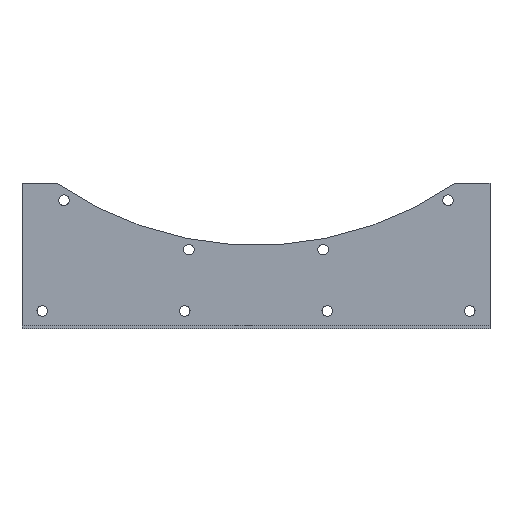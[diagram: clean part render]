
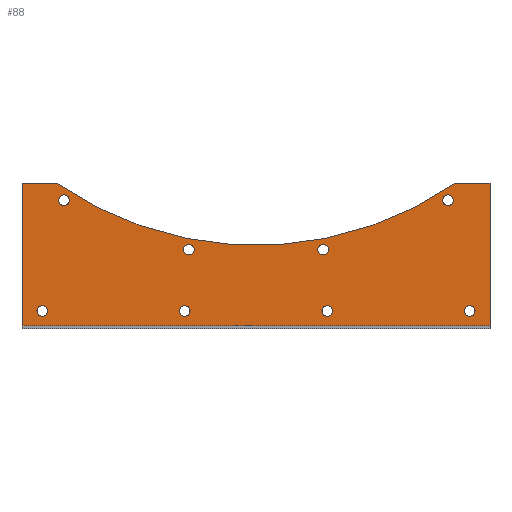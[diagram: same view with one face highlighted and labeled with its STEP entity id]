
A CAD part, top view. The second image highlights one B-rep face of the part: STEP entity #88.
In plain terms, the highlighted planar face has unit normal (0, 0, 1).
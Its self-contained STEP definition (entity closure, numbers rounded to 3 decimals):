
#88=ADVANCED_FACE('',(#184,#185,#186,#187,#188,#189,#190,#191,#192),#193,.T.);
#184=FACE_BOUND('',#285,.T.);
#185=FACE_BOUND('',#286,.T.);
#186=FACE_BOUND('',#287,.T.);
#187=FACE_BOUND('',#288,.T.);
#188=FACE_BOUND('',#289,.T.);
#189=FACE_BOUND('',#290,.T.);
#190=FACE_BOUND('',#291,.T.);
#191=FACE_BOUND('',#292,.T.);
#192=FACE_OUTER_BOUND('',#293,.T.);
#193=PLANE('',#294);
#285=EDGE_LOOP('',(#485,#486));
#286=EDGE_LOOP('',(#487,#488));
#287=EDGE_LOOP('',(#489,#490));
#288=EDGE_LOOP('',(#491,#492));
#289=EDGE_LOOP('',(#493,#494));
#290=EDGE_LOOP('',(#495,#496));
#291=EDGE_LOOP('',(#497,#498));
#292=EDGE_LOOP('',(#499,#500));
#293=EDGE_LOOP('',(#501,#502,#503,#504,#505,#506));
#294=AXIS2_PLACEMENT_3D('',#507,#508,#509);
#485=ORIENTED_EDGE('',*,*,#599,.T.);
#486=ORIENTED_EDGE('',*,*,#604,.T.);
#487=ORIENTED_EDGE('',*,*,#594,.T.);
#488=ORIENTED_EDGE('',*,*,#607,.T.);
#489=ORIENTED_EDGE('',*,*,#589,.T.);
#490=ORIENTED_EDGE('',*,*,#610,.T.);
#491=ORIENTED_EDGE('',*,*,#584,.T.);
#492=ORIENTED_EDGE('',*,*,#613,.T.);
#493=ORIENTED_EDGE('',*,*,#579,.T.);
#494=ORIENTED_EDGE('',*,*,#616,.T.);
#495=ORIENTED_EDGE('',*,*,#574,.T.);
#496=ORIENTED_EDGE('',*,*,#619,.T.);
#497=ORIENTED_EDGE('',*,*,#569,.T.);
#498=ORIENTED_EDGE('',*,*,#622,.T.);
#499=ORIENTED_EDGE('',*,*,#564,.T.);
#500=ORIENTED_EDGE('',*,*,#625,.T.);
#501=ORIENTED_EDGE('',*,*,#627,.T.);
#502=ORIENTED_EDGE('',*,*,#641,.F.);
#503=ORIENTED_EDGE('',*,*,#642,.F.);
#504=ORIENTED_EDGE('',*,*,#643,.F.);
#505=ORIENTED_EDGE('',*,*,#644,.F.);
#506=ORIENTED_EDGE('',*,*,#638,.F.);
#507=CARTESIAN_POINT('',(0.0,3.0,-17.0));
#508=DIRECTION('',(0.0,0.0,1.0));
#509=DIRECTION('',(1.0,0.0,0.0));
#564=EDGE_CURVE('',#664,#661,#665,.T.);
#569=EDGE_CURVE('',#673,#670,#674,.T.);
#574=EDGE_CURVE('',#682,#679,#683,.T.);
#579=EDGE_CURVE('',#691,#688,#692,.T.);
#584=EDGE_CURVE('',#700,#697,#701,.T.);
#589=EDGE_CURVE('',#709,#706,#710,.T.);
#594=EDGE_CURVE('',#718,#715,#719,.T.);
#599=EDGE_CURVE('',#727,#724,#728,.T.);
#604=EDGE_CURVE('',#724,#727,#734,.T.);
#607=EDGE_CURVE('',#715,#718,#737,.T.);
#610=EDGE_CURVE('',#706,#709,#740,.T.);
#613=EDGE_CURVE('',#697,#700,#743,.T.);
#616=EDGE_CURVE('',#688,#691,#746,.T.);
#619=EDGE_CURVE('',#679,#682,#749,.T.);
#622=EDGE_CURVE('',#670,#673,#752,.T.);
#625=EDGE_CURVE('',#661,#664,#755,.T.);
#627=EDGE_CURVE('',#757,#758,#759,.T.);
#638=EDGE_CURVE('',#757,#776,#777,.T.);
#641=EDGE_CURVE('',#780,#758,#781,.T.);
#642=EDGE_CURVE('',#782,#780,#783,.T.);
#643=EDGE_CURVE('',#784,#782,#785,.T.);
#644=EDGE_CURVE('',#776,#784,#786,.T.);
#661=VERTEX_POINT('',#807);
#664=VERTEX_POINT('',#811);
#665=CIRCLE('',#812,6.0);
#670=VERTEX_POINT('',#818);
#673=VERTEX_POINT('',#822);
#674=CIRCLE('',#823,6.0);
#679=VERTEX_POINT('',#829);
#682=VERTEX_POINT('',#833);
#683=CIRCLE('',#834,6.0);
#688=VERTEX_POINT('',#840);
#691=VERTEX_POINT('',#844);
#692=CIRCLE('',#845,6.0);
#697=VERTEX_POINT('',#851);
#700=VERTEX_POINT('',#855);
#701=CIRCLE('',#856,6.0);
#706=VERTEX_POINT('',#862);
#709=VERTEX_POINT('',#866);
#710=CIRCLE('',#867,6.0);
#715=VERTEX_POINT('',#873);
#718=VERTEX_POINT('',#877);
#719=CIRCLE('',#878,6.0);
#724=VERTEX_POINT('',#884);
#727=VERTEX_POINT('',#888);
#728=CIRCLE('',#889,6.0);
#734=CIRCLE('',#896,6.0);
#737=CIRCLE('',#899,6.0);
#740=CIRCLE('',#902,6.0);
#743=CIRCLE('',#905,6.0);
#746=CIRCLE('',#908,6.0);
#749=CIRCLE('',#911,6.0);
#752=CIRCLE('',#914,6.0);
#755=CIRCLE('',#917,6.0);
#757=VERTEX_POINT('',#919);
#758=VERTEX_POINT('',#920);
#759=CIRCLE('',#921,395.5);
#776=VERTEX_POINT('',#945);
#777=LINE('',#946,#947);
#780=VERTEX_POINT('',#951);
#781=LINE('',#952,#953);
#782=VERTEX_POINT('',#954);
#783=LINE('',#955,#956);
#784=VERTEX_POINT('',#957);
#785=LINE('',#958,#959);
#786=LINE('',#960,#961);
#807=CARTESIAN_POINT('',(-237.0,-62.5,-17.0));
#811=CARTESIAN_POINT('',(-249.0,-62.5,-17.0));
#812=AXIS2_PLACEMENT_3D('',#991,#992,#993);
#818=CARTESIAN_POINT('',(249.0,-62.5,-17.0));
#822=CARTESIAN_POINT('',(237.0,-62.5,-17.0));
#823=AXIS2_PLACEMENT_3D('',#999,#1000,#1001);
#829=CARTESIAN_POINT('',(-75.0,-62.5,-17.0));
#833=CARTESIAN_POINT('',(-87.0,-62.5,-17.0));
#834=AXIS2_PLACEMENT_3D('',#1007,#1008,#1009);
#840=CARTESIAN_POINT('',(87.0,-62.5,-17.0));
#844=CARTESIAN_POINT('',(75.0,-62.5,-17.0));
#845=AXIS2_PLACEMENT_3D('',#1015,#1016,#1017);
#851=CARTESIAN_POINT('',(82.252,8.342,-17.0));
#855=CARTESIAN_POINT('',(70.464,6.094,-17.0));
#856=AXIS2_PLACEMENT_3D('',#1023,#1024,#1025);
#862=CARTESIAN_POINT('',(-70.464,6.094,-17.0));
#866=CARTESIAN_POINT('',(-82.252,8.342,-17.0));
#867=AXIS2_PLACEMENT_3D('',#1031,#1032,#1033);
#873=CARTESIAN_POINT('',(-213.283,60.221,-17.0));
#877=CARTESIAN_POINT('',(-223.415,66.651,-17.0));
#878=AXIS2_PLACEMENT_3D('',#1039,#1040,#1041);
#884=CARTESIAN_POINT('',(223.415,66.651,-17.0));
#888=CARTESIAN_POINT('',(213.283,60.221,-17.0));
#889=AXIS2_PLACEMENT_3D('',#1047,#1048,#1049);
#896=AXIS2_PLACEMENT_3D('',#1057,#1058,#1059);
#899=AXIS2_PLACEMENT_3D('',#1063,#1064,#1065);
#902=AXIS2_PLACEMENT_3D('',#1069,#1070,#1071);
#905=AXIS2_PLACEMENT_3D('',#1075,#1076,#1077);
#908=AXIS2_PLACEMENT_3D('',#1081,#1082,#1083);
#911=AXIS2_PLACEMENT_3D('',#1087,#1088,#1089);
#914=AXIS2_PLACEMENT_3D('',#1093,#1094,#1095);
#917=AXIS2_PLACEMENT_3D('',#1099,#1100,#1101);
#919=CARTESIAN_POINT('',(225.378,82.5,-17.0));
#920=CARTESIAN_POINT('',(-225.378,82.5,-17.0));
#921=AXIS2_PLACEMENT_3D('',#1102,#1103,#1104);
#945=CARTESIAN_POINT('',(266.0,82.5,-17.0));
#946=CARTESIAN_POINT('',(0.0,82.5,-17.0));
#947=VECTOR('',#1115,1.0);
#951=CARTESIAN_POINT('',(-266.0,82.5,-17.0));
#952=CARTESIAN_POINT('',(0.0,82.5,-17.0));
#953=VECTOR('',#1117,1.0);
#954=CARTESIAN_POINT('',(-266.0,-79.5,-17.0));
#955=CARTESIAN_POINT('',(-266.0,1.5,-17.0));
#956=VECTOR('',#1118,1.0);
#957=CARTESIAN_POINT('',(266.0,-79.5,-17.0));
#958=CARTESIAN_POINT('',(0.0,-79.5,-17.0));
#959=VECTOR('',#1119,1.0);
#960=CARTESIAN_POINT('',(266.0,1.5,-17.0));
#961=VECTOR('',#1120,1.0);
#991=CARTESIAN_POINT('',(-243.0,-62.5,-17.0));
#992=DIRECTION('',(0.0,0.0,-1.0));
#993=DIRECTION('',(1.0,0.0,0.0));
#999=CARTESIAN_POINT('',(243.0,-62.5,-17.0));
#1000=DIRECTION('',(0.0,0.0,-1.0));
#1001=DIRECTION('',(1.0,0.0,0.0));
#1007=CARTESIAN_POINT('',(-81.0,-62.5,-17.0));
#1008=DIRECTION('',(0.0,0.0,-1.0));
#1009=DIRECTION('',(1.0,0.0,0.0));
#1015=CARTESIAN_POINT('',(81.0,-62.5,-17.0));
#1016=DIRECTION('',(0.0,0.0,-1.0));
#1017=DIRECTION('',(1.0,0.0,0.0));
#1023=CARTESIAN_POINT('',(76.358,7.218,-17.0));
#1024=DIRECTION('',(0.0,0.0,-1.0));
#1025=DIRECTION('',(0.982,0.187,0.0));
#1031=CARTESIAN_POINT('',(-76.358,7.218,-17.0));
#1032=DIRECTION('',(0.0,-0.0,-1.0));
#1033=DIRECTION('',(0.982,-0.187,0.0));
#1039=CARTESIAN_POINT('',(-218.349,63.436,-17.0));
#1040=DIRECTION('',(0.0,-0.0,-1.0));
#1041=DIRECTION('',(0.844,-0.536,0.0));
#1047=CARTESIAN_POINT('',(218.349,63.436,-17.0));
#1048=DIRECTION('',(0.0,0.0,-1.0));
#1049=DIRECTION('',(0.844,0.536,0.0));
#1057=CARTESIAN_POINT('',(218.349,63.436,-17.0));
#1058=DIRECTION('',(0.0,0.0,-1.0));
#1059=DIRECTION('',(0.844,0.536,0.0));
#1063=CARTESIAN_POINT('',(-218.349,63.436,-17.0));
#1064=DIRECTION('',(0.0,-0.0,-1.0));
#1065=DIRECTION('',(0.844,-0.536,0.0));
#1069=CARTESIAN_POINT('',(-76.358,7.218,-17.0));
#1070=DIRECTION('',(0.0,-0.0,-1.0));
#1071=DIRECTION('',(0.982,-0.187,0.0));
#1075=CARTESIAN_POINT('',(76.358,7.218,-17.0));
#1076=DIRECTION('',(0.0,0.0,-1.0));
#1077=DIRECTION('',(0.982,0.187,0.0));
#1081=CARTESIAN_POINT('',(81.0,-62.5,-17.0));
#1082=DIRECTION('',(0.0,0.0,-1.0));
#1083=DIRECTION('',(1.0,0.0,0.0));
#1087=CARTESIAN_POINT('',(-81.0,-62.5,-17.0));
#1088=DIRECTION('',(0.0,0.0,-1.0));
#1089=DIRECTION('',(1.0,0.0,0.0));
#1093=CARTESIAN_POINT('',(243.0,-62.5,-17.0));
#1094=DIRECTION('',(0.0,0.0,-1.0));
#1095=DIRECTION('',(1.0,0.0,0.0));
#1099=CARTESIAN_POINT('',(-243.0,-62.5,-17.0));
#1100=DIRECTION('',(0.0,0.0,-1.0));
#1101=DIRECTION('',(1.0,0.0,0.0));
#1102=CARTESIAN_POINT('',(0.0,407.5,-17.0));
#1103=DIRECTION('',(0.0,0.0,-1.0));
#1104=DIRECTION('',(1.0,0.0,0.0));
#1115=DIRECTION('',(1.0,0.0,-0.0));
#1117=DIRECTION('',(1.0,0.0,-0.0));
#1118=DIRECTION('',(0.0,1.0,0.0));
#1119=DIRECTION('',(-1.0,0.0,0.0));
#1120=DIRECTION('',(0.0,-1.0,0.0));
